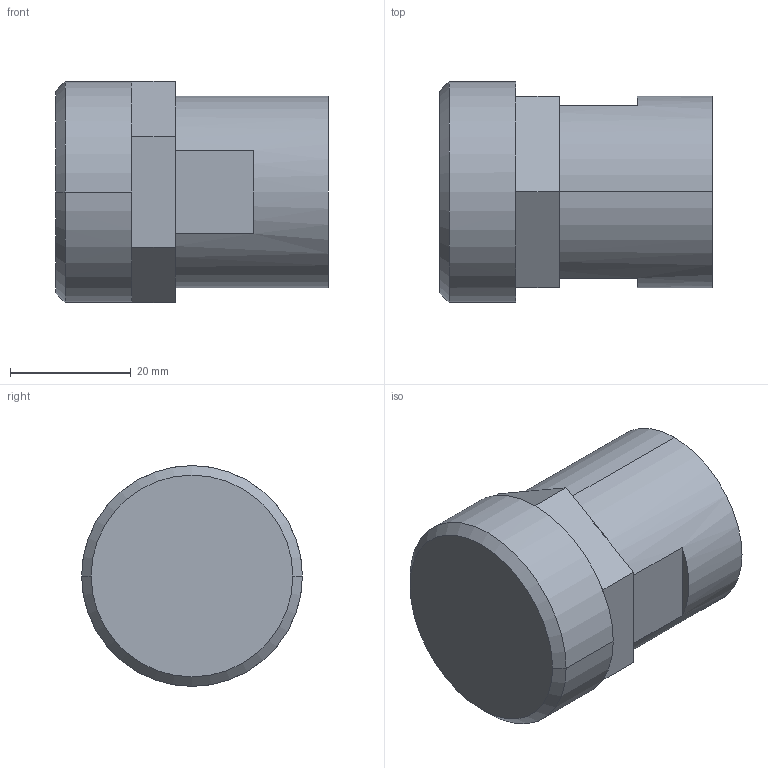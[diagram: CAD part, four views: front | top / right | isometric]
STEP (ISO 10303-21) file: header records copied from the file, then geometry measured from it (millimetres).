
FILE_DESCRIPTION (( 'STEP AP214' ), '1' );
FILE_NAME ('04-fnpt-with-top-mount-adapter.STEP', '2012-11-27T22:59:29', ( '' ), ( '' ), 'SwSTEP 2.0', 'SolidWorks 2012', '' );
FILE_SCHEMA (( 'AUTOMOTIVE_DESIGN' ));
Length unit declared in the file: inch
Products named in the file (1): 04-fnpt-with-top-mount-adapter
Bounding box: 45.24 x 36.6 x 36.66 mm (x, y, z)
Volume: 38002 mm3; surface area: 7231.2 mm2
Topology: 1 solids, 1 shells, 39 faces, 88 edges, 52 vertices
Faces by surface type: plane 29, cylinder 6, cone 4
Entity records: 1300 total; most frequent: DIRECTION 204, CARTESIAN_POINT 180, ORIENTED_EDGE 176, EDGE_CURVE 88, AXIS2_PLACEMENT_3D 76, LINE 52, VECTOR 52, VERTEX_POINT 52
